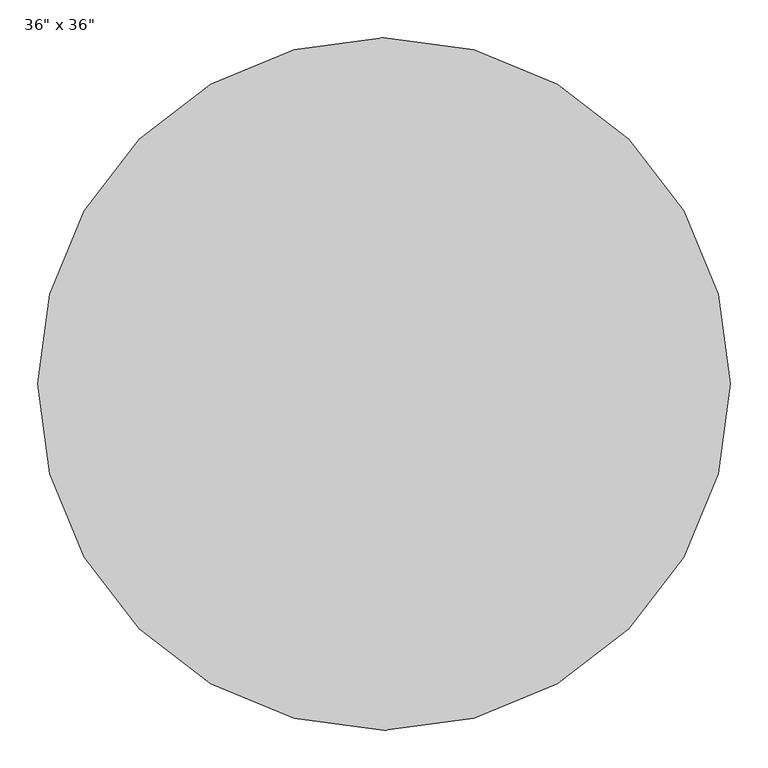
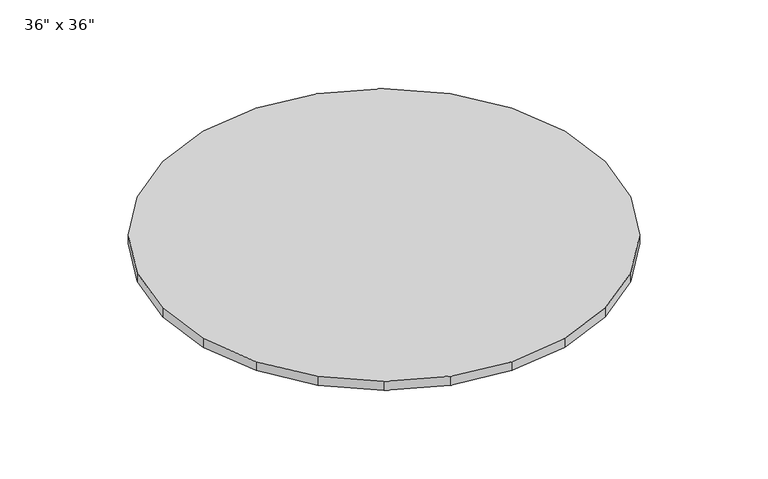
"""IFC4 building model written with IfcOpenShell, lengths in millimetres: furniture geometry."""

from ifc_helpers import new_model, si_unit, origin, place, context, project, spatial, triangles, source, transform, mapped, element, save


def furniture_f241dce0(model_context):
    return source(origin(), model_context, "Body", "Tessellation", [
        triangles([(105.7524567, -60.6929478, 19.2353902), (9.8335454, 9.8334852, 19.2354038), (104.5218632, -62.8229095, 19.2353902), (11.5730922, 11.5765236, 19.2354038), (215.427312, -106.1197762, 19.2353834), (214.7893423, -108.4972383, 19.2353834), (333.1235255, -121.6152602, 19.2353811), (333.1235255, -124.0764109, 19.2353811), (450.816378, -106.1197399, 19.2353834), (451.4543115, -108.4972019, 19.2353834), (560.4912606, -60.6928751, 19.2353902), (561.7218541, -62.8228323, 19.2353902), (654.6705774, 11.5766269, 19.2354038), (656.4101515, 9.8335885, 19.2354038), (726.9365879, 105.7525021, 19.235422), (729.0700333, 104.5219177, 19.235422), (772.3667364, 215.4273847, 19.2354402), (774.7443529, 214.7928849, 19.2354402), (787.8623022, 333.1236709, 19.2354606), (790.3234892, 333.1236709, 19.2354606), (787.8623022, 333.1236709, 5.82e-05), (774.7443529, 451.4543841, 7.89e-05), (790.3234892, 333.1236709, 5.82e-05), (772.3667364, 450.8199389, 7.88e-05), (772.3667364, 215.4273847, 3.77e-05), (774.7443529, 214.7928849, 3.76e-05), (726.9365879, 105.7525021, 1.85e-05), (729.0700333, 104.5219177, 1.83e-05), (654.6705774, 11.5766303, 2e-06), (656.4101515, 9.8335919, 1.7e-06), (560.4912606, -60.6928706, -1.06e-05), (561.7218541, -62.8228323, -1.1e-05), (450.816378, -106.1197399, -1.86e-05), (451.4543115, -108.4972019, -1.9e-05), (333.1235255, -121.6152602, -2.13e-05), (333.1235255, -124.0764109, -2.17e-05), (215.427312, -106.1197762, -1.86e-05), (214.7893423, -108.4972383, -1.9e-05), (105.7524567, -60.6929433, -1.06e-05), (104.5218632, -62.8229095, -1.1e-05), (11.5730922, 11.576527, 2e-06), (9.8335454, 9.8334886, 1.7e-06), (-60.6928751, 105.7558358, 1.85e-05), (-62.8229141, 104.5252514, 1.83e-05), (-106.1197399, 215.4272575, 3.77e-05), (-108.4972383, 214.7927577, 3.76e-05), (-121.6152966, 333.1234892, 5.82e-05), (-124.0764836, 333.1234892, 5.82e-05), (-106.1197762, 450.8197935, 7.88e-05), (-108.4972746, 451.4542388, 7.89e-05), (-60.6929478, 560.491188, 9.8e-05), (-62.8229913, 561.7218178, 9.82e-05), (11.5764884, 654.6705048, 0.0001145), (9.8334421, 656.413567, 0.0001148), (105.7557995, 726.9400034, 0.0001271), (104.521736, 729.0699606, 0.0001275), (215.4271667, 772.3669544, 0.000135), (214.7927214, 774.7443529, 0.0001355), (333.1233802, 787.8624475, 0.0001378), (333.1233802, 790.3236345, 0.0001382), (450.8161963, 772.3669544, 0.000135), (451.4541661, 774.7443529, 0.0001355), (560.4911516, 726.9401487, 0.0001271), (561.7217451, 729.0700333, 0.0001275), (654.6705048, 654.6706501, 0.0001145), (656.4134943, 656.4136396, 0.0001148), (726.9364426, 560.4913333, 9.8e-05), (729.0699606, 561.7219268, 9.82e-05), (790.3234892, 333.1236709, 1.7780647), (774.7443529, 451.4543841, 17.4575043), (790.3234892, 333.1236709, 17.4574839), (774.7443529, 451.4543841, 1.7780855), (729.0699606, 561.7219268, 17.4575248), (729.0699606, 561.7219268, 1.7781048), (656.4134943, 656.4136396, 17.4575407), (656.4134943, 656.4136396, 1.7781214), (561.7217451, 729.0700333, 17.457552), (561.7217451, 729.0700333, 1.778134), (451.4541661, 774.7443529, 17.4575611), (451.4541661, 774.7443529, 1.7781421), (333.1233802, 790.3236345, 17.4575634), (333.1233802, 790.3236345, 1.7781448), (214.7927214, 774.7443529, 17.4575611), (214.7927214, 774.7443529, 1.7781421), (104.521736, 729.0699606, 17.457552), (104.521736, 729.0699606, 1.778134), (9.8334421, 656.413567, 17.4575407), (9.8334421, 656.413567, 1.7781214), (-62.8229913, 561.7218178, 17.4575248), (-62.8229913, 561.7218178, 1.7781048), (-108.4972746, 451.4542388, 17.4575043), (-108.4972746, 451.4542388, 1.7780855), (-124.0764836, 333.1234892, 17.4574839), (-124.0764836, 333.1234892, 1.7780647), (-108.4972383, 214.7927577, 17.4574623), (-108.4972383, 214.7927577, 1.7780441), (-62.8229141, 104.5252514, 17.4574441), (-62.8229141, 104.5252514, 1.7780248), (9.8335454, 9.8334863, 17.4574271), (9.8335454, 9.8334886, 1.7780082), (104.5218632, -62.8229095, 17.4574146), (104.5218632, -62.8229095, 1.7779956), (214.7893423, -108.4972383, 17.4574067), (214.7893423, -108.4972383, 1.7779875), (333.1235255, -124.0764109, 17.4574033), (333.1235255, -124.0764109, 1.777985), (451.4543115, -108.4972019, 17.4574067), (451.4543115, -108.4972019, 1.7779875), (561.7218541, -62.8228323, 17.4574146), (561.7218541, -62.8228323, 1.7779956), (656.4101515, 9.8335897, 17.4574271), (656.4101515, 9.8335919, 1.7780082), (729.0700333, 104.5219177, 17.4574441), (729.0700333, 104.5219177, 1.7780248), (774.7443529, 214.7928849, 17.4574623), (774.7443529, 214.7928849, 1.7780441), (333.1234529, 333.1235982, 19.2354606), (745.4963562, 443.6177622, 19.235481), (702.8477966, 546.5854234, 19.2354969), (760.0436514, 333.1236709, 19.2354606), (635.0021559, 635.0023739, 19.2355151), (546.5852054, 702.8478693, 19.2355242), (443.6175078, 745.4997717, 19.2355333), (333.1233802, 760.0436514, 19.2355356), (222.6258734, 745.4997717, 19.2355333), (119.6617003, 702.8478693, 19.2355242), (31.2448339, 635.0022285, 19.2355151), (-36.6008205, 546.5853144, 19.2354969), (-79.2527388, 443.6176532, 19.235481), (-93.8000522, 333.1234892, 19.2354606), (-79.2526934, 222.6294342, 19.2354424), (-36.6007501, 119.6617276, 19.235422), (31.2449315, 31.244827, 19.2354084), (119.6618184, -36.6007796, 19.235397), (222.6260187, -79.2526934, 19.2353902), (333.1235255, -93.8000158, 19.2353857), (443.6176532, -79.2526571, 19.2353902), (546.5853144, -36.6007092, 19.235397), (635.0022285, 31.2449247, 19.2354084), (702.8478693, 119.6618457, 19.235422), (745.4963562, 222.6260732, 19.2354424), (333.1234529, 333.1235982, 5.82e-05), (745.4963562, 222.6260732, 3.89e-05), (702.8478693, 119.6618457, 2.09e-05), (760.0436514, 333.1236709, 5.82e-05), (635.0022285, 31.244927, 5.5e-06), (546.5853144, -36.6007047, -6.4e-06), (443.6176532, -79.2526571, -1.39e-05), (333.1235255, -93.8000158, -1.64e-05), (222.6260187, -79.2526934, -1.39e-05), (119.6618184, -36.6007751, -6.4e-06), (31.2449315, 31.2448316, 5.5e-06), (-36.6007501, 119.6617276, 2.09e-05), (-79.2526934, 222.6294342, 3.89e-05), (-93.8000522, 333.1234892, 5.82e-05), (-79.2527388, 443.6176532, 7.76e-05), (-36.6008205, 546.5853144, 9.56e-05), (31.2448339, 635.0022285, 0.000111), (119.6617003, 702.8478693, 0.0001229), (222.6258734, 745.4997717, 0.0001303), (333.1233802, 760.0436514, 0.0001329), (443.6175078, 745.4997717, 0.0001303), (546.5852054, 702.8478693, 0.0001229), (635.0021559, 635.0023739, 0.000111), (702.8477966, 546.5854234, 9.56e-05), (745.4963562, 443.6177622, 7.76e-05), (772.3667364, 450.8199389, 19.235481), (726.9364426, 560.4913333, 19.2355015), (654.6705048, 654.6706501, 19.2355151), (560.4911516, 726.9401487, 19.2355287), (450.8161963, 772.3669544, 19.2355378), (333.1233802, 787.8624475, 19.2355401), (215.4271667, 772.3669544, 19.2355378), (105.7557995, 726.9400034, 19.2355287), (11.5764884, 654.6705048, 19.2355151), (-60.6929478, 560.491188, 19.2355015), (-106.1197762, 450.8197935, 19.235481), (-121.6152966, 333.1234892, 19.2354606), (-106.1197399, 215.4272575, 19.2354402), (-60.6928751, 105.7558358, 19.235422), (774.7443529, 451.4543841, 19.235481), (729.0699606, 561.7219268, 19.2355015), (656.4134943, 656.4136396, 19.2355174), (561.7217451, 729.0700333, 19.2355287), (451.4541661, 774.7443529, 19.2355378), (333.1233802, 790.3236345, 19.2355401), (214.7927214, 774.7443529, 19.2355378), (104.521736, 729.0699606, 19.2355287), (9.8334421, 656.413567, 19.2355174), (-62.8229913, 561.7218178, 19.2355015), (-108.4972746, 451.4542388, 19.235481), (-124.0764836, 333.1234892, 19.2354606), (-108.4972383, 214.7927577, 19.2354402), (-62.8229141, 104.5252514, 19.235422)], [[1, 2, 3], [1, 4, 2], [5, 3, 6], [5, 1, 3], [7, 6, 8], [7, 5, 6], [9, 8, 10], [9, 7, 8], [11, 10, 12], [11, 9, 10], [13, 12, 14], [13, 11, 12], [15, 14, 16], [15, 13, 14], [17, 16, 18], [17, 15, 16], [19, 18, 20], [19, 17, 18], [21, 22, 23], [21, 24, 22], [25, 23, 26], [25, 21, 23], [27, 26, 28], [27, 25, 26], [29, 28, 30], [29, 27, 28], [31, 30, 32], [31, 29, 30], [33, 32, 34], [33, 31, 32], [35, 34, 36], [35, 33, 34], [37, 36, 38], [37, 35, 36], [39, 38, 40], [39, 37, 38], [41, 40, 42], [41, 39, 40], [43, 42, 44], [43, 41, 42], [45, 44, 46], [45, 43, 44], [47, 46, 48], [47, 45, 46], [49, 48, 50], [49, 47, 48], [51, 50, 52], [51, 49, 50], [53, 52, 54], [53, 51, 52], [55, 54, 56], [55, 53, 54], [57, 56, 58], [57, 55, 56], [59, 58, 60], [59, 57, 58], [61, 60, 62], [61, 59, 60], [63, 62, 64], [63, 61, 62], [65, 64, 66], [65, 63, 64], [67, 66, 68], [67, 65, 66], [24, 68, 22], [24, 67, 68], [69, 70, 71], [69, 72, 70], [72, 73, 70], [72, 74, 73], [74, 75, 73], [74, 76, 75], [76, 77, 75], [76, 78, 77], [78, 79, 77], [78, 80, 79], [80, 81, 79], [80, 82, 81], [82, 83, 81], [82, 84, 83], [84, 85, 83], [84, 86, 85], [86, 87, 85], [86, 88, 87], [88, 89, 87], [88, 90, 89], [90, 91, 89], [90, 92, 91], [92, 93, 91], [92, 94, 93], [94, 95, 93], [94, 96, 95], [96, 97, 95], [96, 98, 97], [98, 99, 97], [98, 100, 99], [100, 101, 99], [100, 102, 101], [102, 103, 101], [102, 104, 103], [104, 105, 103], [104, 106, 105], [106, 107, 105], [106, 108, 107], [108, 109, 107], [108, 110, 109], [110, 111, 109], [110, 112, 111], [112, 113, 111], [112, 114, 113], [114, 115, 113], [114, 116, 115], [116, 71, 115], [116, 69, 71], [117, 118, 119], [117, 120, 118], [117, 121, 122], [117, 119, 121], [117, 123, 124], [117, 122, 123], [117, 125, 126], [117, 124, 125], [117, 127, 128], [117, 126, 127], [117, 129, 130], [117, 128, 129], [117, 131, 132], [117, 130, 131], [117, 133, 134], [117, 132, 133], [117, 135, 136], [117, 134, 135], [117, 137, 138], [117, 136, 137], [117, 139, 140], [117, 138, 139], [117, 141, 120], [117, 140, 141], [142, 143, 144], [142, 145, 143], [142, 146, 147], [142, 144, 146], [142, 148, 149], [142, 147, 148], [142, 150, 151], [142, 149, 150], [142, 152, 153], [142, 151, 152], [142, 154, 155], [142, 153, 154], [142, 156, 157], [142, 155, 156], [142, 158, 159], [142, 157, 158], [142, 160, 161], [142, 159, 160], [142, 162, 163], [142, 161, 162], [142, 164, 165], [142, 163, 164], [142, 166, 145], [142, 165, 166], [19, 118, 120], [19, 167, 118], [167, 119, 118], [167, 168, 119], [168, 121, 119], [168, 169, 121], [169, 122, 121], [169, 170, 122], [170, 123, 122], [170, 171, 123], [171, 124, 123], [171, 172, 124], [172, 125, 124], [172, 173, 125], [173, 126, 125], [173, 174, 126], [174, 127, 126], [174, 175, 127], [175, 128, 127], [175, 176, 128], [176, 129, 128], [176, 177, 129], [177, 130, 129], [177, 178, 130], [178, 131, 130], [178, 179, 131], [179, 132, 131], [179, 180, 132], [180, 133, 132], [180, 4, 133], [4, 134, 133], [4, 1, 134], [1, 135, 134], [1, 5, 135], [5, 136, 135], [5, 7, 136], [7, 137, 136], [7, 9, 137], [9, 138, 137], [9, 11, 138], [11, 139, 138], [11, 13, 139], [13, 140, 139], [13, 15, 140], [15, 141, 140], [15, 17, 141], [17, 120, 141], [17, 19, 120], [24, 145, 166], [24, 21, 145], [21, 143, 145], [21, 25, 143], [25, 144, 143], [25, 27, 144], [27, 146, 144], [27, 29, 146], [29, 147, 146], [29, 31, 147], [31, 148, 147], [31, 33, 148], [33, 149, 148], [33, 35, 149], [35, 150, 149], [35, 37, 150], [37, 151, 150], [37, 39, 151], [39, 152, 151], [39, 41, 152], [41, 153, 152], [41, 43, 153], [43, 154, 153], [43, 45, 154], [45, 155, 154], [45, 47, 155], [47, 156, 155], [47, 49, 156], [49, 157, 156], [49, 51, 157], [51, 158, 157], [51, 53, 158], [53, 159, 158], [53, 55, 159], [55, 160, 159], [55, 57, 160], [57, 161, 160], [57, 59, 161], [59, 162, 161], [59, 61, 162], [61, 163, 162], [61, 63, 163], [63, 164, 163], [63, 65, 164], [65, 165, 164], [65, 67, 165], [67, 166, 165], [67, 24, 166], [71, 181, 20], [71, 70, 181], [72, 23, 22], [72, 69, 23], [70, 182, 181], [70, 73, 182], [74, 22, 68], [74, 72, 22], [73, 183, 182], [73, 75, 183], [76, 68, 66], [76, 74, 68], [75, 184, 183], [75, 77, 184], [78, 66, 64], [78, 76, 66], [77, 185, 184], [77, 79, 185], [80, 64, 62], [80, 78, 64], [79, 186, 185], [79, 81, 186], [82, 62, 60], [82, 80, 62], [81, 187, 186], [81, 83, 187], [84, 60, 58], [84, 82, 60], [83, 188, 187], [83, 85, 188], [86, 58, 56], [86, 84, 58], [85, 189, 188], [85, 87, 189], [88, 56, 54], [88, 86, 56], [87, 190, 189], [87, 89, 190], [90, 54, 52], [90, 88, 54], [89, 191, 190], [89, 91, 191], [92, 52, 50], [92, 90, 52], [91, 192, 191], [91, 93, 192], [94, 50, 48], [94, 92, 50], [93, 193, 192], [93, 95, 193], [96, 48, 46], [96, 94, 48], [95, 194, 193], [95, 97, 194], [98, 46, 44], [98, 96, 46], [97, 2, 194], [97, 99, 2], [100, 44, 42], [100, 98, 44], [99, 3, 2], [99, 101, 3], [102, 42, 40], [102, 100, 42], [101, 6, 3], [101, 103, 6], [104, 40, 38], [104, 102, 40], [103, 8, 6], [103, 105, 8], [106, 38, 36], [106, 104, 38], [105, 10, 8], [105, 107, 10], [108, 36, 34], [108, 106, 36], [107, 12, 10], [107, 109, 12], [110, 34, 32], [110, 108, 34], [109, 14, 12], [109, 111, 14], [112, 32, 30], [112, 110, 32], [111, 16, 14], [111, 113, 16], [114, 30, 28], [114, 112, 30], [113, 18, 16], [113, 115, 18], [116, 28, 26], [116, 114, 28], [115, 20, 18], [115, 71, 20], [69, 26, 23], [69, 116, 26], [167, 20, 181], [167, 19, 20], [168, 181, 182], [168, 167, 181], [169, 182, 183], [169, 168, 182], [170, 183, 184], [170, 169, 183], [171, 184, 185], [171, 170, 184], [172, 185, 186], [172, 171, 185], [173, 186, 187], [173, 172, 186], [174, 187, 188], [174, 173, 187], [175, 188, 189], [175, 174, 188], [176, 189, 190], [176, 175, 189], [177, 190, 191], [177, 176, 190], [178, 191, 192], [178, 177, 191], [179, 192, 193], [179, 178, 192], [180, 193, 194], [180, 179, 193], [4, 194, 2], [4, 180, 194]]),
    ])


if __name__ == "__main__":
    model = new_model("IFC4")
    model_context = context("Model", 3, world=origin())
    ifc_project = project(units=[si_unit("LENGTHUNIT", "METRE", prefix="MILLI")], contexts=[model_context])
    site = spatial("IfcSite", under=ifc_project)
    building = spatial("IfcBuilding", under=site)
    placement = place(None, origin())
    furniture_shape = furniture_f241dce0(model_context)
    element("IfcFurniture", 1, ObjectType="Editable3DSnapper : 36\" x 36\"", at=placement, inside=building, context=model_context, shape_type="MappedRepresentation", body=[
        mapped(furniture_shape, transform((0.0, 0.0, 0.0), x_axis=(1.0, 0.0, 0.0), y_axis=(0.0, 1.0, 0.0), z_axis=(0.0, 0.0, 1.0))),
    ])
    save(model, "model.ifc")
